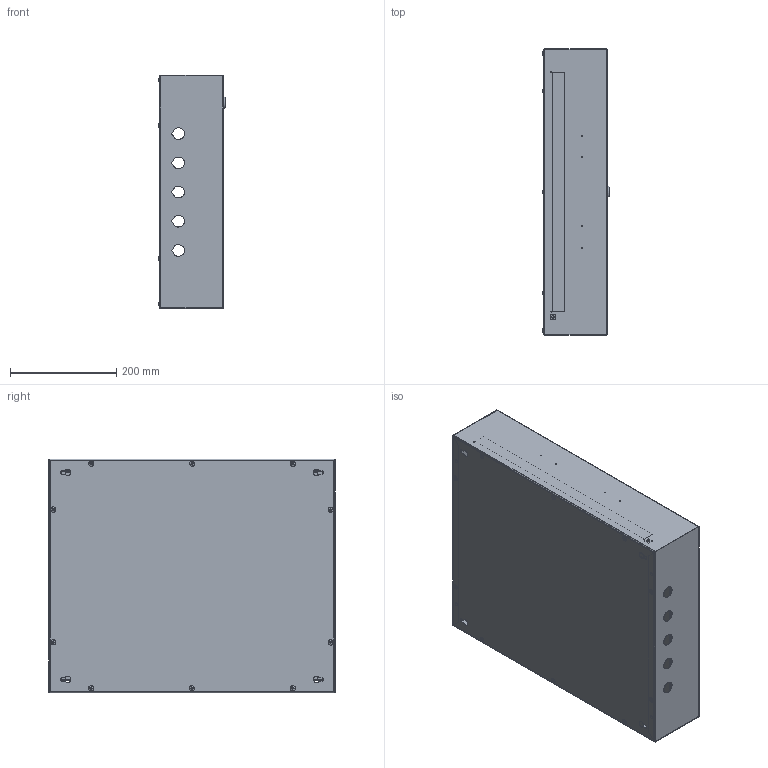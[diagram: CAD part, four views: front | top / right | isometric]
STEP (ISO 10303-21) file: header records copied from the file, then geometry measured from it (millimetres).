
FILE_DESCRIPTION (( 'STEP AP214' ), '1' );
FILE_NAME ('ÙÐí-54-540õ440õ120-IP31-ÓÕË3-ÊÝÀÇ.STEP', '2023-01-24T13:24:59', ( '' ), ( '' ), 'SwSTEP 2.0', 'SolidWorks 2018', '' );
FILE_SCHEMA (( 'AUTOMOTIVE_DESIGN' ));
Length unit declared in the file: millimetre
Products named in the file (1): ÙÐí-54-540õ440õ120-IP31-ÓÕË3-ÊÝÀÇ
Bounding box: 125.16 x 539.7 x 440.3 mm (x, y, z)
Surface area: 1755318.4 mm2 (no closed solid volume)
Topology: 0 solids, 31 shells, 224 faces, 1219 edges, 965 vertices
Faces by surface type: plane 106, cylinder 78, sphere 20, bspline 18, cone 2
Entity records: 16299 total; most frequent: CARTESIAN_POINT 4355, DIRECTION 2023, ORIENTED_EDGE 1537, EDGE_CURVE 1219, VERTEX_POINT 965, AXIS2_PLACEMENT_3D 695, VECTOR 633, LINE 633
